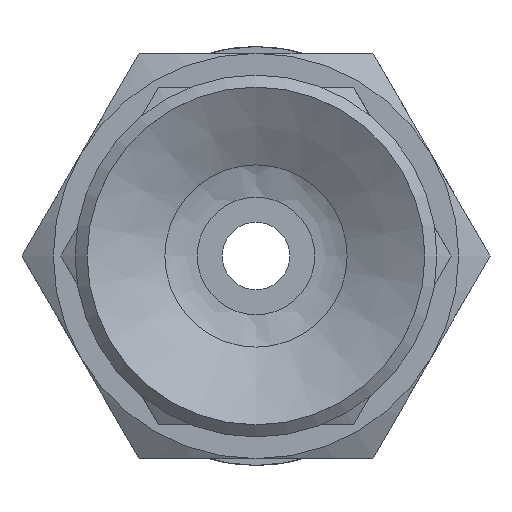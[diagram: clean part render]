
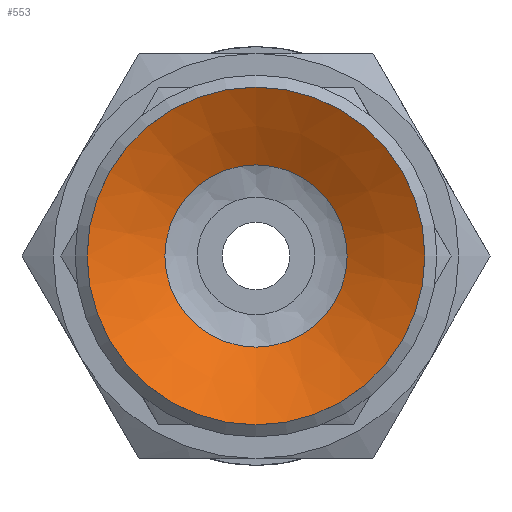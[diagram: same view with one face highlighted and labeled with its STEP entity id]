
A CAD part, front view. The second image highlights one B-rep face of the part: STEP entity #553.
In plain terms, the highlighted conical face has half-angle 61.39 degrees and reference radius 2.25 mm.
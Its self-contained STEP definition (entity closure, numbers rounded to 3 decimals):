
#553=ADVANCED_FACE('',(#849,#850),#851,.F.);
#849=FACE_BOUND('',#1256,.T.);
#850=FACE_OUTER_BOUND('',#1257,.T.);
#851=CONICAL_SURFACE('',#1258,2.25,1.071);
#1256=EDGE_LOOP('',(#2242));
#1257=EDGE_LOOP('',(#2243));
#1258=AXIS2_PLACEMENT_3D('',#2244,#2245,#2246);
#2242=ORIENTED_EDGE('',*,*,#2736,.T.);
#2243=ORIENTED_EDGE('',*,*,#2737,.T.);
#2244=CARTESIAN_POINT('',(0.0,1.5,0.0));
#2245=DIRECTION('',(-0.0,-1.0,0.));
#2246=DIRECTION('',(0.0,0.,-1.0));
#2736=EDGE_CURVE('',#3122,#3122,#3123,.T.);
#2737=EDGE_CURVE('',#3124,#3124,#3125,.T.);
#3122=VERTEX_POINT('',#3916);
#3123=CIRCLE('',#3917,2.698);
#3124=VERTEX_POINT('',#3918);
#3125=CIRCLE('',#3919,5.);
#3916=CARTESIAN_POINT('',(0.0,1.256,-2.698));
#3917=AXIS2_PLACEMENT_3D('',#4649,#4650,#4651);
#3918=CARTESIAN_POINT('',(0.0,0.,-5.));
#3919=AXIS2_PLACEMENT_3D('',#4652,#4653,#4654);
#4649=CARTESIAN_POINT('',(0.0,1.256,0.0));
#4650=DIRECTION('',(0.0,1.0,0.));
#4651=DIRECTION('',(0.0,0.,-1.0));
#4652=CARTESIAN_POINT('',(0.0,0.0,0.0));
#4653=DIRECTION('',(0.0,-1.0,0.));
#4654=DIRECTION('',(0.0,0.,-1.0));
